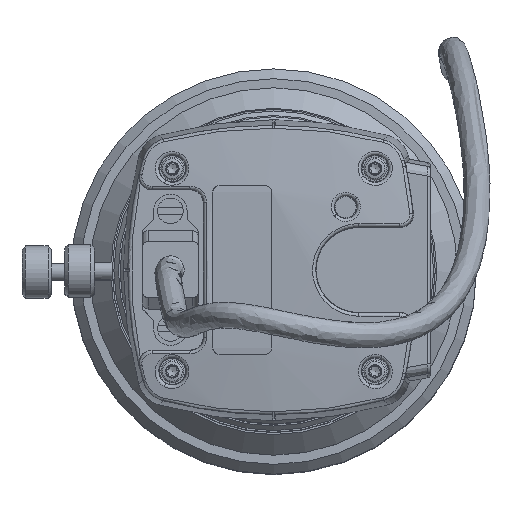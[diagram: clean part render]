
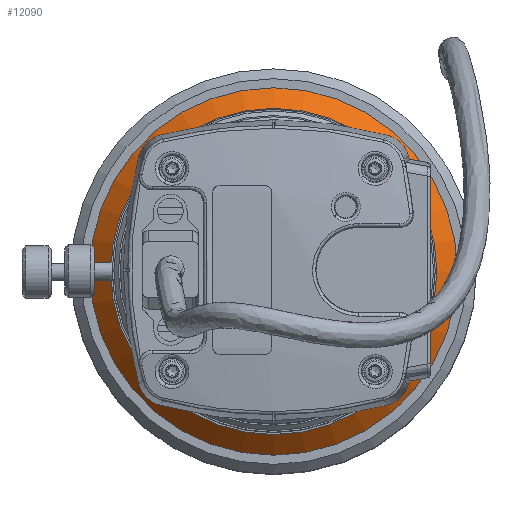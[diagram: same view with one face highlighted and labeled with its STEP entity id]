
A CAD part, top view. The second image highlights one B-rep face of the part: STEP entity #12090.
In plain terms, the highlighted conical face has half-angle 45 degrees and reference radius 26.525 mm.
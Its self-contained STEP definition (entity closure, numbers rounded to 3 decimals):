
#859=CONICAL_SURFACE('',#13253,26.525,0.785);
#1383=LINE('',#43033,#1968);
#1968=VECTOR('',#15959,26.525);
#2868=FACE_OUTER_BOUND('',#3571,.T.);
#3571=EDGE_LOOP('',(#10184,#10185,#10186,#10187,#10188,#10189));
#4125=CIRCLE('',#13251,24.95);
#4126=CIRCLE('',#13252,24.95);
#4127=CIRCLE('',#13254,28.1);
#4128=CIRCLE('',#13255,28.1);
#5234=VERTEX_POINT('',#43027);
#5235=VERTEX_POINT('',#43028);
#5236=VERTEX_POINT('',#43032);
#5237=VERTEX_POINT('',#43034);
#6912=EDGE_CURVE('',#5234,#5235,#4125,.T.);
#6913=EDGE_CURVE('',#5235,#5234,#4126,.T.);
#6914=EDGE_CURVE('',#5235,#5236,#1383,.T.);
#6915=EDGE_CURVE('',#5236,#5237,#4127,.T.);
#6916=EDGE_CURVE('',#5237,#5236,#4128,.T.);
#10184=ORIENTED_EDGE('',*,*,#6912,.F.);
#10185=ORIENTED_EDGE('',*,*,#6913,.F.);
#10186=ORIENTED_EDGE('',*,*,#6914,.T.);
#10187=ORIENTED_EDGE('',*,*,#6915,.T.);
#10188=ORIENTED_EDGE('',*,*,#6916,.T.);
#10189=ORIENTED_EDGE('',*,*,#6914,.F.);
#12090=ADVANCED_FACE('',(#2868),#859,.T.);
#13251=AXIS2_PLACEMENT_3D('',#43029,#15953,#15954);
#13252=AXIS2_PLACEMENT_3D('',#43030,#15955,#15956);
#13253=AXIS2_PLACEMENT_3D('',#43031,#15957,#15958);
#13254=AXIS2_PLACEMENT_3D('',#43035,#15960,#15961);
#13255=AXIS2_PLACEMENT_3D('',#43036,#15962,#15963);
#15953=DIRECTION('center_axis',(0.,0.,
1.));
#15954=DIRECTION('ref_axis',(-1.,0.,0.));
#15955=DIRECTION('center_axis',(0.,0.,
1.));
#15956=DIRECTION('ref_axis',(-1.,0.,0.));
#15957=DIRECTION('center_axis',(0.,0.,
-1.));
#15958=DIRECTION('ref_axis',(-1.,0.,0.));
#15959=DIRECTION('',(0.707,0.,-0.707));
#15960=DIRECTION('center_axis',(0.,0.,
1.));
#15961=DIRECTION('ref_axis',(-1.,0.,0.));
#15962=DIRECTION('center_axis',(0.,0.,
1.));
#15963=DIRECTION('ref_axis',(-1.,0.,0.));
#43027=CARTESIAN_POINT('',(-124.782,17.905,37.217));
#43028=CARTESIAN_POINT('',(-74.882,17.905,37.217));
#43029=CARTESIAN_POINT('Origin',(-99.832,17.905,37.217));
#43030=CARTESIAN_POINT('Origin',(-99.832,17.905,37.217));
#43031=CARTESIAN_POINT('Origin',(-99.832,17.905,35.642));
#43032=CARTESIAN_POINT('',(-71.732,17.905,34.067));
#43033=CARTESIAN_POINT('',(-73.307,17.905,35.642));
#43034=CARTESIAN_POINT('',(-127.932,17.905,34.067));
#43035=CARTESIAN_POINT('Origin',(-99.832,17.905,34.067));
#43036=CARTESIAN_POINT('Origin',(-99.832,17.905,34.067));
